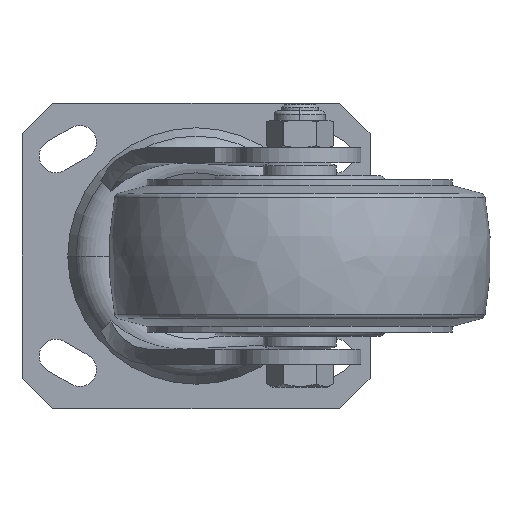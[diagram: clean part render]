
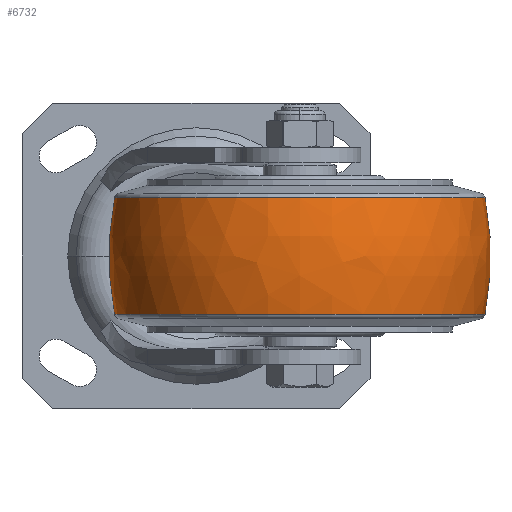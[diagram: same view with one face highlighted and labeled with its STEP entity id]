
A CAD part, front view. The second image highlights one B-rep face of the part: STEP entity #6732.
In plain terms, the highlighted free-form (B-spline) face has degree [3, 3] with [7, 4] control points.
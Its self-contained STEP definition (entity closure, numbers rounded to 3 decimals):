
#5900=CARTESIAN_POINT('',(0.,-37.5,0.));
#5901=DIRECTION('',(0.,0.,1.));
#5902=DIRECTION('',(0.19,0.982,0.));
#5903=AXIS2_PLACEMENT_3D('',#5900,#5901,#5902);
#5905=CARTESIAN_POINT('',(0.,37.5,0.));
#5906=DIRECTION('',(0.,0.,-1.));
#5907=DIRECTION('',(0.19,-0.982,0.));
#5908=AXIS2_PLACEMENT_3D('',#5905,#5906,#5907);
#5910=CARTESIAN_POINT('',(19.022,0.,0.));
#5911=DIRECTION('',(-1.,0.,0.));
#5912=DIRECTION('',(0.,1.,0.));
#5913=AXIS2_PLACEMENT_3D('',#5910,#5911,#5912);
#5935=CARTESIAN_POINT('',(-19.022,0.,0.));
#5936=DIRECTION('',(-1.,0.,0.));
#5937=DIRECTION('',(0.,1.,0.));
#5938=AXIS2_PLACEMENT_3D('',#5935,#5936,#5937);
#6196=CARTESIAN_POINT('',(19.022,60.674,0.));
#6197=CARTESIAN_POINT('',(-19.022,60.674,0.));
#6198=VERTEX_POINT('',#6196);
#6199=VERTEX_POINT('',#6197);
#6260=CARTESIAN_POINT('',(19.022,-60.674,
0.));
#6261=CARTESIAN_POINT('',(-19.022,-60.674,
0.));
#6262=VERTEX_POINT('',#6260);
#6263=VERTEX_POINT('',#6261);
#6694=CARTESIAN_POINT('',(-19.773,-60.406,
3.8));
#6695=CARTESIAN_POINT('',(-6.679,-63.042,
3.966));
#6696=CARTESIAN_POINT('',(6.679,-63.042,3.966));
#6697=CARTESIAN_POINT('',(19.773,-60.406,3.8));
#6698=CARTESIAN_POINT('',(-19.773,-62.745,
-33.373));
#6699=CARTESIAN_POINT('',(-6.679,-65.483,
-34.83));
#6700=CARTESIAN_POINT('',(6.679,-65.483,
-34.83));
#6701=CARTESIAN_POINT('',(19.773,-62.745,
-33.373));
#6702=CARTESIAN_POINT('',(-19.773,-37.247,
-60.526));
#6703=CARTESIAN_POINT('',(-6.679,-38.873,
-63.167));
#6704=CARTESIAN_POINT('',(6.679,-38.873,
-63.167));
#6705=CARTESIAN_POINT('',(19.773,-37.247,
-60.526));
#6706=CARTESIAN_POINT('',(-19.773,0.,
-60.526));
#6707=CARTESIAN_POINT('',(-6.679,0.,
-63.167));
#6708=CARTESIAN_POINT('',(6.679,0.,
-63.167));
#6709=CARTESIAN_POINT('',(19.773,0.,
-60.526));
#6710=CARTESIAN_POINT('',(-19.773,37.247,
-60.526));
#6711=CARTESIAN_POINT('',(-6.679,38.873,
-63.167));
#6712=CARTESIAN_POINT('',(6.679,38.873,-63.167));
#6713=CARTESIAN_POINT('',(19.773,37.247,-60.526));
#6714=CARTESIAN_POINT('',(-19.773,62.745,
-33.373));
#6715=CARTESIAN_POINT('',(-6.679,65.483,
-34.83));
#6716=CARTESIAN_POINT('',(6.679,65.483,-34.83));
#6717=CARTESIAN_POINT('',(19.773,62.745,-33.373));
#6718=CARTESIAN_POINT('',(-19.773,60.406,3.8));
#6719=CARTESIAN_POINT('',(-6.679,63.042,3.966));
#6720=CARTESIAN_POINT('',(6.679,63.042,3.966));
#6721=CARTESIAN_POINT('',(19.773,60.406,3.8));
#6722=(BOUNDED_SURFACE()B_SPLINE_SURFACE(3,3,((#6694,#6695,#6696,#6697),(#6698,
#6699,#6700,#6701),(#6702,#6703,#6704,#6705),(#6706,#6707,#6708,#6709),(#6710,
#6711,#6712,#6713),(#6714,#6715,#6716,#6717),(#6718,#6719,#6720,#6721)),
.UNSPECIFIED.,.F.,.F.,.F.)B_SPLINE_SURFACE_WITH_KNOTS((4,3,4),(4,4),(0.,1.,
2.),(0.,1.),.UNSPECIFIED.)GEOMETRIC_REPRESENTATION_ITEM()RATIONAL_B_SPLINE_SURFACE(((1.199,1.183,1.183,1.199),(
0.947,0.934,0.934,0.947),(
0.947,0.934,0.934,0.947),(
1.199,1.183,1.183,1.199),(
0.947,0.934,0.934,0.947),(
0.947,0.934,0.934,0.947),(
1.199,1.183,1.183,1.199)))REPRESENTATION_ITEM('')SURFACE());
#6724=ORIENTED_EDGE('',*,*,#6723,.T.);
#6726=ORIENTED_EDGE('',*,*,#6725,.T.);
#6728=ORIENTED_EDGE('',*,*,#6727,.F.);
#6729=ORIENTED_EDGE('',*,*,#6687,.F.);
#6730=EDGE_LOOP('',(#6724,#6726,#6728,#6729));
#6731=FACE_OUTER_BOUND('',#6730,.F.);
#5904=CIRCLE('',#5903,100.);
#5909=CIRCLE('',#5908,100.);
#5914=CIRCLE('',#5913,60.674);
#5939=CIRCLE('',#5938,60.674);
#6687=EDGE_CURVE('',#6198,#6262,#5914,.T.);
#6723=EDGE_CURVE('',#6198,#6199,#5904,.T.);
#6725=EDGE_CURVE('',#6199,#6263,#5939,.T.);
#6727=EDGE_CURVE('',#6262,#6263,#5909,.T.);
#6732=ADVANCED_FACE('',(#6731),#6722,.T.);
